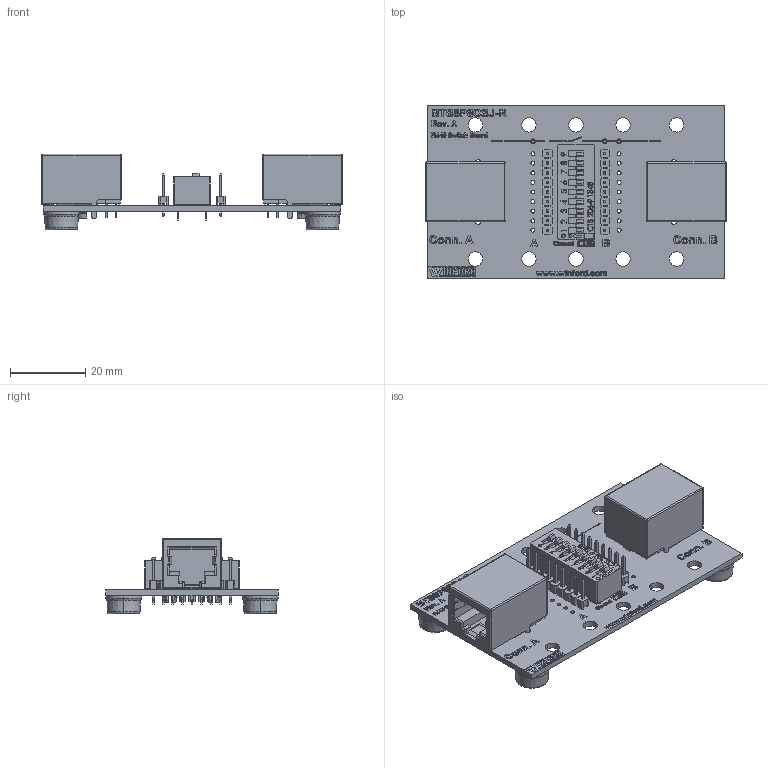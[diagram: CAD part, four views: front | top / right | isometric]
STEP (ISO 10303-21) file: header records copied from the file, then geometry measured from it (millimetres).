
FILE_DESCRIPTION (( 'STEP AP214' ), '1' );
FILE_NAME ('bts8p8csj-r-ft_rev_a.step', '2022-01-04T13:50:39', ( '' ), ( '' ), 'SwSTEP 2.0', 'SolidWorks 2018', '' );
FILE_SCHEMA (( 'AUTOMOTIVE_DESIGN' ));
Length unit declared in the file: inch
Products named in the file (6): single row header- 9 position; bts8p8csj-r_PCB; DIP Switch 9 Pin; bts8p8csj-r-ft_rev_a; Modular Jack 8; RubberFoot_round
Assembly tree (10 placements, depth 2):
  bts8p8csj-r-ft_rev_a
    bts8p8csj-r_PCB
    Modular Jack 8  x2
    DIP Switch 9 Pin
    single row header- 9 position  x2
    RubberFoot_round  x4
Bounding box: 79.81 x 45.72 x 20.05 mm (x, y, z)
Volume: 14536.3 mm3; surface area: 18354.1 mm2
Topology: 58 solids, 58 shells, 3882 faces, 10214 edges, 6644 vertices
Faces by surface type: plane 2774, bspline 619, cylinder 453, cone 20, torus 16
Entity records: 167636 total; most frequent: CARTESIAN_POINT 52332, ORIENTED_EDGE 16872, DIRECTION 13213, EDGE_CURVE 8436, LINE 6429, VECTOR 6429, VERTEX_POINT 5539, EDGE_LOOP 3565
